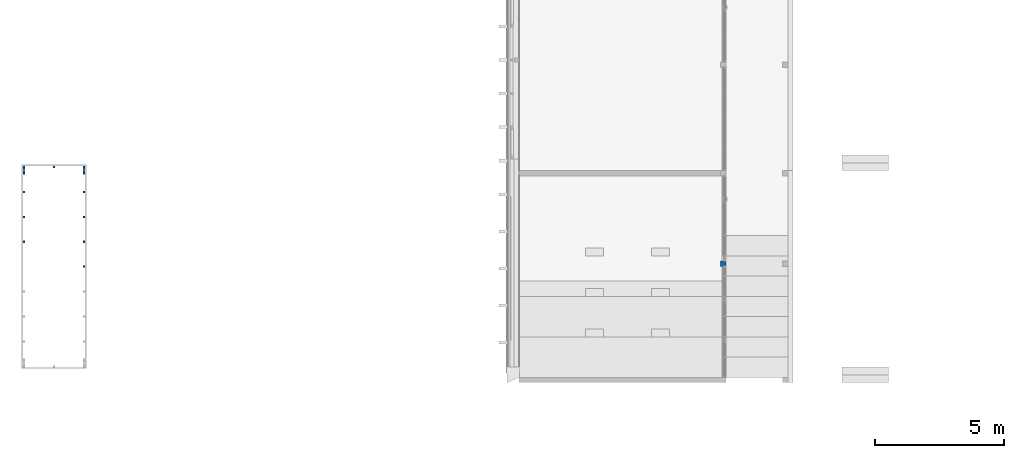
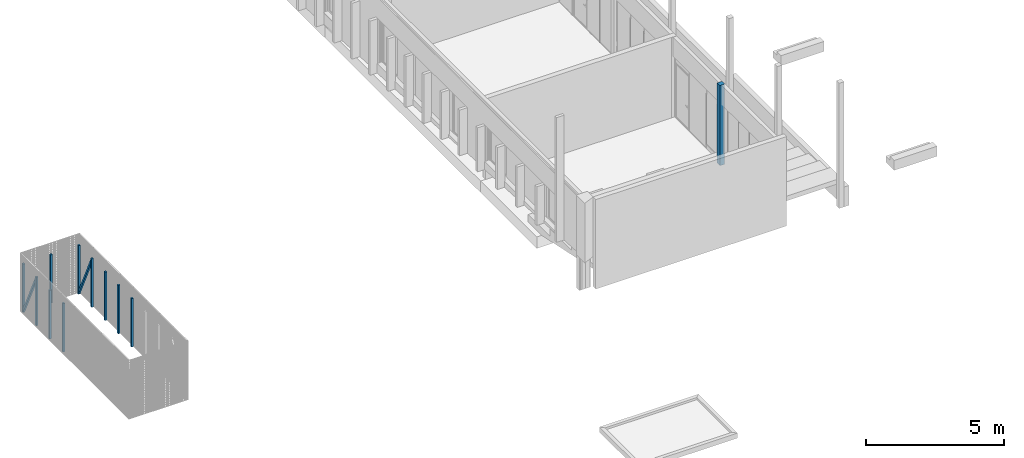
# One storey, part 3 of 65: 13 columns.
"""IFC2X3 building model written with IfcOpenShell, lengths in millimetres."""

from ifc_helpers import new_model, entity, si_unit, converted_unit, derived_unit, money_unit, direction, frame, origin_with_axes, origin_2d_with_axis, place, context, subcontext, project, spatial, rectangle, extrude, clip, halfspace, material, type_object, element, save


model = new_model("IFC2X3")

# Units and contexts
model_context = context("Model", 3, precision=0.01, world=origin_with_axes(), true_north=direction((0.0, 1.0)))
body_context = subcontext(model_context, "Body", "Model", "MODEL_VIEW")
ifc_project = project(units=[si_unit("LENGTHUNIT", "METRE", prefix="MILLI"), si_unit("AREAUNIT", "SQUARE_METRE"), si_unit("VOLUMEUNIT", "CUBIC_METRE"), converted_unit("PLANEANGLEUNIT", "DEGREE", entity("IfcPlaneAngleMeasure", 0.0174532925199), si_unit("PLANEANGLEUNIT", "RADIAN"), dimensions=[0, 0, 0, 0, 0, 0, 0]), si_unit("SOLIDANGLEUNIT", "STERADIAN"), money_unit("EUR"), converted_unit("TIMEUNIT", "Year", entity("IfcTimeMeasure", 31556926.0), si_unit("TIMEUNIT", "SECOND"), dimensions=[0, 0, 1, 0, 0, 0, 0]), si_unit("MASSUNIT", "GRAM", prefix="KILO"), si_unit("THERMODYNAMICTEMPERATUREUNIT", "DEGREE_CELSIUS"), si_unit("LUMINOUSINTENSITYUNIT", "LUMEN"), si_unit("ENERGYUNIT", "JOULE", prefix="MEGA"), derived_unit("THERMALCONDUCTANCEUNIT", [(si_unit("POWERUNIT", "WATT"), 1), (si_unit("LENGTHUNIT", "METRE"), -1), (si_unit("THERMODYNAMICTEMPERATUREUNIT", "KELVIN"), -1)]), derived_unit("SPECIFICHEATCAPACITYUNIT", [(si_unit("ENERGYUNIT", "JOULE"), 1), (si_unit("MASSUNIT", "GRAM", prefix="KILO"), -1), (si_unit("THERMODYNAMICTEMPERATUREUNIT", "KELVIN"), -1)]), derived_unit("MASSDENSITYUNIT", [(si_unit("MASSUNIT", "GRAM", prefix="KILO"), 1), (si_unit("VOLUMEUNIT", "CUBIC_METRE"), -1)])], contexts=[model_context])

# Site, building, storey
site_placement = place(None, origin_with_axes())
site = spatial("IfcSite", under=ifc_project, at=site_placement, Name="Puškini 31, Narva", CompositionType="ELEMENT")
building_placement = place(site_placement, origin_with_axes())
building = spatial("IfcBuilding", under=site, at=building_placement, Name="Narva Riigigümnaasium", CompositionType="ELEMENT")
storey_placement = place(building_placement, frame((0.0, 0.0, -1320.0), z_axis=(0.0, 0.0, 1.0), x_axis=(1.0, 0.0, 0.0)))
storey = spatial("IfcBuildingStorey", under=building, at=storey_placement, Name="1.korrus -1.32", CompositionType="ELEMENT", Elevation=-1320.0)

# Columns
ifc_material = material(Name="ET-06_Teras - Konstruktsioon")
column_type_1 = type_object("IfcColumnType", Name="ET-06_Teras - Konstruktsioon 200 x 200", PredefinedType="COLUMN")
column_1_placement = place(storey_placement, frame((30301.9999948, 163600.000002, 0.0), z_axis=(0.0, 0.0, 1.0), x_axis=(0.0, 1.0, 0.0)))
element("IfcColumn", 1, at=column_1_placement, inside=storey, type_object=column_type_1, material=ifc_material, Name="Post", ObjectType="COLUMN", context=body_context, shape_type="SweptSolid", body=[
    extrude(rectangle(XDim=200.0, YDim=200.0, at=origin_2d_with_axis()), origin_with_axes(), (0.0, 0.0, 1.0), 3555.0),
])
column_type_2 = type_object("IfcColumnType", Name="ET-06_Teras - Konstruktsioon 80 x 80", PredefinedType="COLUMN")
column_2_placement = place(storey_placement, frame((3241.44903946, 167305.842904, 736.127136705), z_axis=(0.0, 0.0, 1.0), x_axis=(-1.0, 0.0, 0.0)))
element("IfcColumn", 2, at=column_2_placement, inside=storey, type_object=column_type_2, material=ifc_material, Name="Post", ObjectType="COLUMN", context=body_context, shape_type="Clipping", body=[
    clip(clip(extrude(rectangle(XDim=80.0, YDim=80.0, at=origin_2d_with_axis()), frame((0.0, -72.5682679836, -156.392667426), z_axis=(0.0, -0.420907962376, -0.907103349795), x_axis=(-1.0, 0.0, 0.0)), (0.0, 0.0, -1.0), 2447.41477683), halfspace(frame((0.0, 0.0, 0.0), z_axis=(0.0, 1.0, 0.0), x_axis=(0.0, 0.0, 1.0)), True)), halfspace(frame((0.0, 884.999830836, 0.0), z_axis=(0.0, -1.0, 0.0), x_axis=(0.0, 0.0, -1.0)), True)),
])
column_3_placement = place(storey_placement, frame((3241.44894834, 166380.843073, 640.0), z_axis=(0.0, 0.0, 1.0), x_axis=(1.0, 0.0, 0.0)))
element("IfcColumn", 3, at=column_3_placement, inside=storey, type_object=column_type_2, material=ifc_material, Name="Post", ObjectType="COLUMN", context=body_context, shape_type="SweptSolid", body=[
    extrude(rectangle(XDim=80.0, YDim=80.0, at=origin_2d_with_axis()), origin_with_axes(), (0.0, 0.0, 1.0), 2150.0),
])
column_4_placement = place(storey_placement, frame((5561.44903946, 167305.842904, 736.127136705), z_axis=(0.0, 0.0, 1.0), x_axis=(-1.0, 0.0, 0.0)))
element("IfcColumn", 4, at=column_4_placement, inside=storey, type_object=column_type_2, material=ifc_material, Name="Post", ObjectType="COLUMN", context=body_context, shape_type="Clipping", body=[
    clip(clip(extrude(rectangle(XDim=80.0, YDim=80.0, at=origin_2d_with_axis()), frame((0.0, -72.5682679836, -156.392667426), z_axis=(0.0, 0.420907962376, 0.907103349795), x_axis=(1.0, 0.0, 0.0)), (0.0, 0.0, 1.0), 2447.41477683), halfspace(frame((0.0, 0.0, 0.0), z_axis=(0.0, 1.0, 0.0), x_axis=(0.0, 0.0, 1.0)), True)), halfspace(frame((0.0, 884.999830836, 0.0), z_axis=(0.0, -1.0, 0.0), x_axis=(0.0, 0.0, -1.0)), True)),
])
for number, where, z_axis, x_axis, name in (
    (5, (5561.44899446, 167345.843081, 640.0), (0.0, 0.0, 1.0), (1.0, 0.0, 0.0), "Post"),
    (6, (3241.44913057, 167345.842904, 640.0), (0.0, 0.0, 1.0), (1.0, 0.0, 0.0), "Post"),
    (7, (5561.44899446, 166380.843073, 640.0), (0.0, 0.0, 1.0), (1.0, 0.0, 0.0), "Post"),
    (8, (5561.44899446, 165415.843045, 640.0), (0.0, 0.0, 1.0), (1.0, 0.0, 0.0), "Post"),
    (9, (5561.44899419, 164450.843045, 640.0), (0.0, 0.0, 1.0), (1.0, 0.0, 0.0), "Post"),
    (10, (5561.44899446, 163486.060646, 640.0), (0.0, 0.0, 1.0), (1.0, 0.0, 0.0), "Post"),
    (11, (3241.44894834, 165415.842912, 640.0), (0.0, 0.0, 1.0), (1.0, 0.0, 0.0), "Post"),
    (12, (3241.44903946, 164450.842912, 640.0), (0.0, 0.0, 1.0), (1.0, 0.0, 0.0), "Post"),
    (13, (4401.44903946, 167345.842904, 640.0), (0.0, 0.0, 1.0), (1.0, 0.0, 0.0), "Post"),
):
    element("IfcColumn", number, at=place(storey_placement, frame(where, z_axis=z_axis, x_axis=x_axis)), inside=storey, type_object=column_type_2, material=ifc_material, Name=name, ObjectType="COLUMN", context=body_context, shape_type="SweptSolid", body=[
        extrude(rectangle(XDim=80.0, YDim=80.0, at=origin_2d_with_axis()), origin_with_axes(), (0.0, 0.0, 1.0), 2150.0),
    ])

save(model, "model.ifc")
